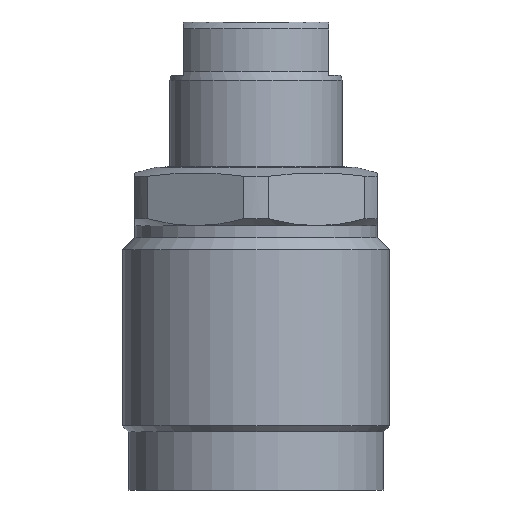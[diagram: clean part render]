
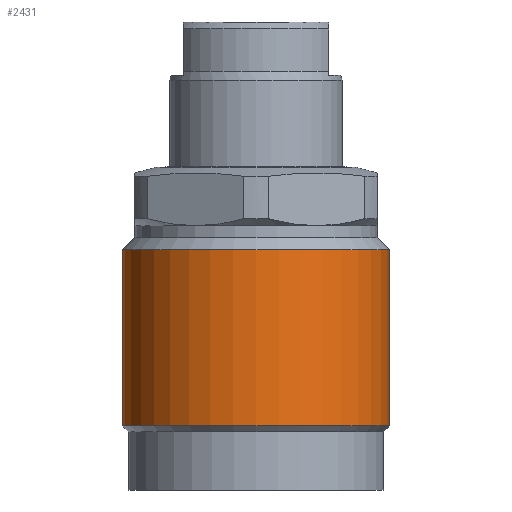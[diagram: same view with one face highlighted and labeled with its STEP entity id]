
A CAD part, front view. The second image highlights one B-rep face of the part: STEP entity #2431.
In plain terms, the highlighted cylindrical face has radius 27.5 mm (diameter 55 mm), a partial arc.
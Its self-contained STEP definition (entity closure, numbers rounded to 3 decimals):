
#186 = CARTESIAN_POINT ( 'NONE',  ( 27.5, 0., 6.379 ) ) ;
#187 = LINE ( 'NONE', #186, #1483 ) ;
#198 = DIRECTION ( 'NONE',  ( 0., 0., 1. ) ) ;
#318 = CARTESIAN_POINT ( 'NONE',  ( 0., 0., -53.3 ) ) ;
#319 = DIRECTION ( 'NONE',  ( 0., 0., 1. ) ) ;
#320 = DIRECTION ( 'NONE',  ( 1., 0., 0. ) ) ;
#322 = CARTESIAN_POINT ( 'NONE',  ( 0., 0., -17. ) ) ;
#323 = DIRECTION ( 'NONE',  ( 0., 0., 1. ) ) ;
#324 = DIRECTION ( 'NONE',  ( 1., 0., 0. ) ) ;
#385 = EDGE_LOOP ( 'NONE', ( #1998, #1999, #2000, #2001 ) ) ;
#553 = CARTESIAN_POINT ( 'NONE',  ( 27.5, 0., -53.3 ) ) ;
#554 = CARTESIAN_POINT ( 'NONE',  ( 27.5, 0., -17. ) ) ;
#556 = CARTESIAN_POINT ( 'NONE',  ( -27.5, 0., -17. ) ) ;
#559 = CARTESIAN_POINT ( 'NONE',  ( -27.5, 0., -53.3 ) ) ;
#1325 = VECTOR ( 'NONE', #1732, 1000. ) ;
#1353 = AXIS2_PLACEMENT_3D ( 'NONE', #1843, #1840, #1846 ) ;
#1483 = VECTOR ( 'NONE', #198, 1000. ) ;
#1513 = CIRCLE ( 'NONE', #1516, 27.5 ) ;
#1515 = CIRCLE ( 'NONE', #1518, 27.5 ) ;
#1516 = AXIS2_PLACEMENT_3D ( 'NONE', #318, #319, #320 ) ;
#1518 = AXIS2_PLACEMENT_3D ( 'NONE', #322, #323, #324 ) ;
#1724 = CARTESIAN_POINT ( 'NONE',  ( -27.5, 0., 6.379 ) ) ;
#1728 = LINE ( 'NONE', #1724, #1325 ) ;
#1732 = DIRECTION ( 'NONE',  ( 0., 0., 1. ) ) ;
#1840 = DIRECTION ( 'NONE',  ( 0., 0., 1. ) ) ;
#1842 = FACE_OUTER_BOUND ( 'NONE', #385, .T. ) ;
#1843 = CARTESIAN_POINT ( 'NONE',  ( 0., 0., 6.379 ) ) ;
#1845 = CYLINDRICAL_SURFACE ( 'NONE', #1353, 27.5 ) ;
#1846 = DIRECTION ( 'NONE',  ( 1., 0., 0. ) ) ;
#1998 = ORIENTED_EDGE ( 'NONE', *, *, #2404, .F. ) ;
#1999 = ORIENTED_EDGE ( 'NONE', *, *, #2671, .T. ) ;
#2000 = ORIENTED_EDGE ( 'NONE', *, *, #2644, .T. ) ;
#2001 = ORIENTED_EDGE ( 'NONE', *, *, #2672, .F. ) ;
#2135 = VERTEX_POINT ( 'NONE', #553 ) ;
#2136 = VERTEX_POINT ( 'NONE', #554 ) ;
#2138 = VERTEX_POINT ( 'NONE', #556 ) ;
#2141 = VERTEX_POINT ( 'NONE', #559 ) ;
#2404 = EDGE_CURVE ( 'NONE', #2141, #2138, #1728, .T. ) ;
#2431 = ADVANCED_FACE ( 'NONE', ( #1842 ), #1845, .T. ) ;
#2644 = EDGE_CURVE ( 'NONE', #2135, #2136, #187, .T. ) ;
#2671 = EDGE_CURVE ( 'NONE', #2141, #2135, #1513, .T. ) ;
#2672 = EDGE_CURVE ( 'NONE', #2138, #2136, #1515, .T. ) ;
